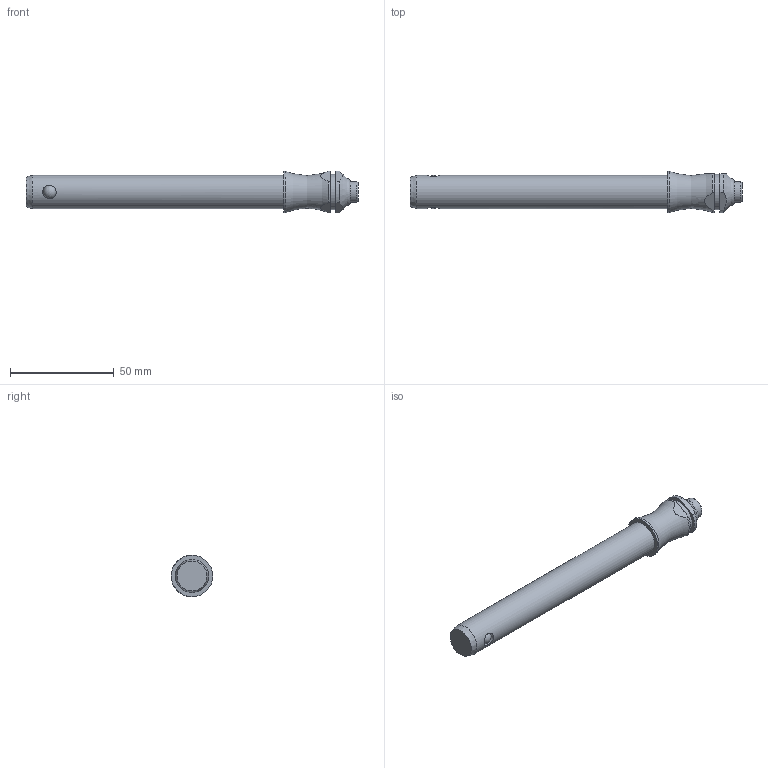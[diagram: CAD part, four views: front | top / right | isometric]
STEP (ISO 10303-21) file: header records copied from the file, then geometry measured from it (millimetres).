
FILE_DESCRIPTION( ( 'STEP AP203' ), '1' );
FILE_NAME( 'C:/Temp/Ganter_Step_05_03_2020/data/3_1/gn113_3/Stainless Steel-Ball lock pin GN 113.3-16-110 (activated).stp', '2020-03-12T08:18:58', ( 'License CC BY-ND 4.0' ), ( 'CADENAS' ), ' ', 'PARTsolutions', ' ' );
FILE_SCHEMA( ( 'CONFIG_CONTROL_DESIGN' ) );
Length unit declared in the file: millimetre
Products named in the file (1): _Stainless Steel-Ball lock pin GN 113.3-16-110 (activated)
Bounding box: 159.75 x 20 x 20 mm (x, y, z)
Volume: 32480.2 mm3; surface area: 8839.7 mm2
Topology: 1 solids, 1 shells, 30 faces, 68 edges, 43 vertices
Faces by surface type: cylinder 12, plane 11, cone 3, torus 2, sphere 2
Full cylindrical faces by diameter (mm): 6.5 x2, 10 x1, 16 x1, 17 x1, 20 x1
Entity records: 1014 total; most frequent: CARTESIAN_POINT 364, DIRECTION 130, ORIENTED_EDGE 102, AXIS2_PLACEMENT_3D 56, EDGE_CURVE 51, EDGE_LOOP 46, VERTEX_POINT 40, FACE_OUTER_BOUND 38
